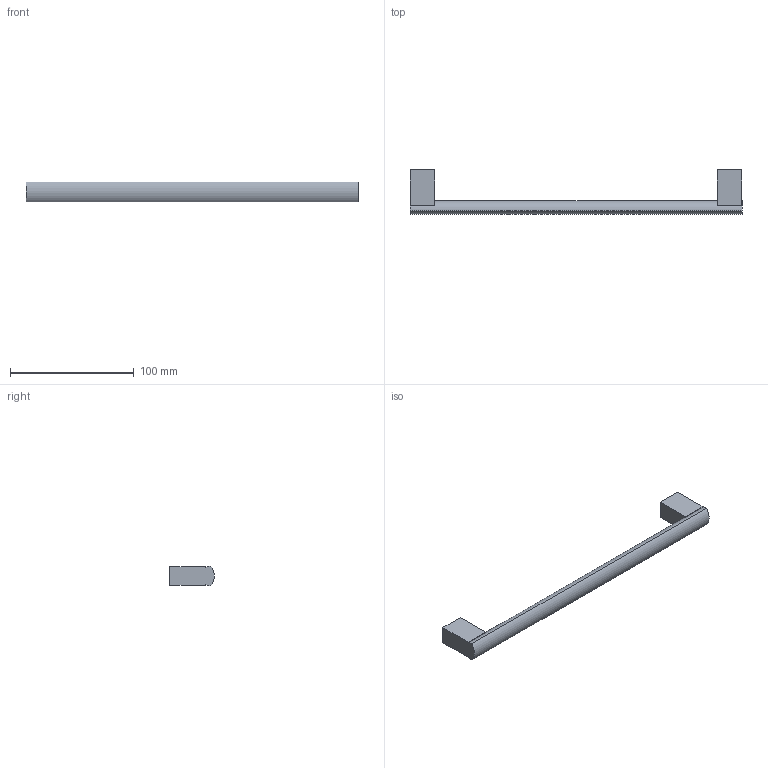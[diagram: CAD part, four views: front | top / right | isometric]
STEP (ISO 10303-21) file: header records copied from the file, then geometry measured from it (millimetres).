
FILE_DESCRIPTION( ( 'STEP AP214' ), '1' );
FILE_NAME( 'D:/Shahbaz D&D/Task/Check and correct handles with 3 drill sockets/Clivia/115207.stp', '2023-02-20T10:42:42', ( '' ), ( '' ), ' ', 'PARTsolutions', ' ' );
FILE_SCHEMA( ( 'AUTOMOTIVE_DESIGN { 1 0 10303 214 1 1 1 1 }' ) );
Length unit declared in the file: millimetre
Products named in the file (1): _115207
Bounding box: 268 x 35.96 x 16 mm (x, y, z)
Volume: 51381.6 mm3; surface area: 15761.1 mm2
Topology: 1 solids, 1 shells, 21 faces, 48 edges, 32 vertices
Faces by surface type: plane 17, cylinder 4
Full cylindrical faces by diameter (mm): 4 x2
Entity records: 768 total; most frequent: DIRECTION 102, CARTESIAN_POINT 100, ORIENTED_EDGE 92, EDGE_CURVE 46, AXIS2_PLACEMENT_3D 34, LINE 34, VECTOR 34, VERTEX_POINT 32
